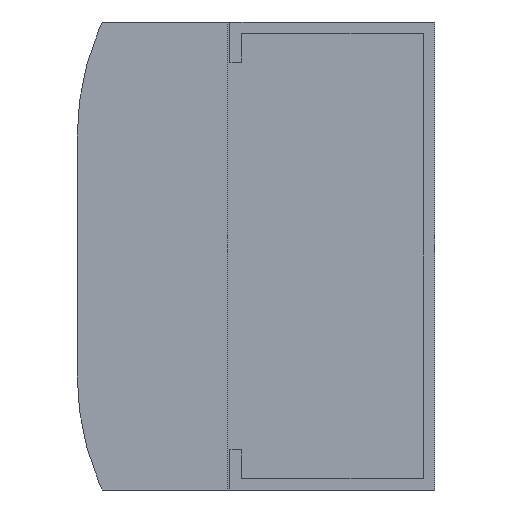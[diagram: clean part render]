
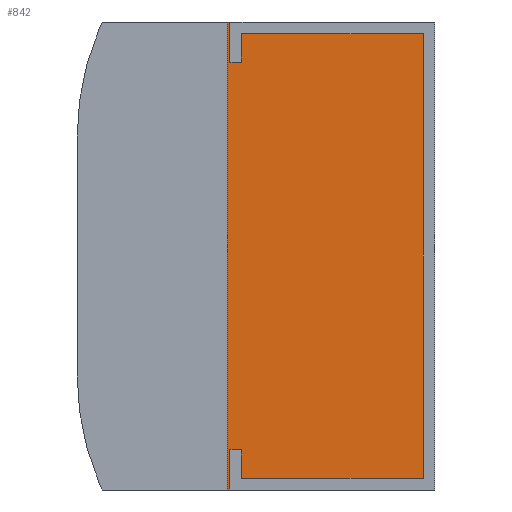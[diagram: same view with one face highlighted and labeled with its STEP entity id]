
A CAD part, left-side view. The second image highlights one B-rep face of the part: STEP entity #842.
In plain terms, the highlighted planar face has unit normal (-1, 0, 0).
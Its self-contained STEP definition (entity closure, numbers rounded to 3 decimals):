
#140 = VECTOR ( 'NONE', #1835, 1000. ) ;
#167 = EDGE_CURVE ( 'NONE', #1778, #1396, #723, .T. ) ;
#267 = FACE_OUTER_BOUND ( 'NONE', #502, .T. ) ;
#306 = LINE ( 'NONE', #608, #355 ) ;
#311 = CARTESIAN_POINT ( 'NONE',  ( -16.3, 18.3, -46.7 ) ) ;
#320 = VERTEX_POINT ( 'NONE', #311 ) ;
#355 = VECTOR ( 'NONE', #1184, 1000. ) ;
#410 = CARTESIAN_POINT ( 'NONE',  ( -16.3, -23.1, -97.838 ) ) ;
#471 = VERTEX_POINT ( 'NONE', #1822 ) ;
#502 = EDGE_LOOP ( 'NONE', ( #1497, #1156, #828, #1246 ) ) ;
#529 = DIRECTION ( 'NONE',  ( 0., 0., -1. ) ) ;
#574 = CARTESIAN_POINT ( 'NONE',  ( -16.3, -23.1, 46.7 ) ) ;
#608 = CARTESIAN_POINT ( 'NONE',  ( -16.3, -23.1, -46.7 ) ) ;
#723 = LINE ( 'NONE', #574, #982 ) ;
#828 = ORIENTED_EDGE ( 'NONE', *, *, #167, .T. ) ;
#842 = ADVANCED_FACE ( 'NONE', ( #267 ), #858, .F. ) ;
#858 = PLANE ( 'NONE',  #1285 ) ;
#957 = EDGE_CURVE ( 'NONE', #471, #1778, #1772, .T. ) ;
#982 = VECTOR ( 'NONE', #1597, 1000. ) ;
#992 = DIRECTION ( 'NONE',  ( 1., 0., 0. ) ) ;
#998 = EDGE_CURVE ( 'NONE', #471, #320, #306, .T. ) ;
#1156 = ORIENTED_EDGE ( 'NONE', *, *, #957, .T. ) ;
#1165 = CARTESIAN_POINT ( 'NONE',  ( -16.3, -20.8, 46.7 ) ) ;
#1184 = DIRECTION ( 'NONE',  ( 0., 1., 0. ) ) ;
#1245 = CARTESIAN_POINT ( 'NONE',  ( -16.3, 18.3, 46.7 ) ) ;
#1246 = ORIENTED_EDGE ( 'NONE', *, *, #1296, .T. ) ;
#1285 = AXIS2_PLACEMENT_3D ( 'NONE', #410, #992, #529 ) ;
#1296 = EDGE_CURVE ( 'NONE', #1396, #320, #1721, .T. ) ;
#1396 = VERTEX_POINT ( 'NONE', #1770 ) ;
#1452 = CARTESIAN_POINT ( 'NONE',  ( -16.3, -20.8, 46.7 ) ) ;
#1497 = ORIENTED_EDGE ( 'NONE', *, *, #998, .F. ) ;
#1597 = DIRECTION ( 'NONE',  ( 0., 1., 0. ) ) ;
#1629 = VECTOR ( 'NONE', #1897, 1000. ) ;
#1721 = LINE ( 'NONE', #1245, #140 ) ;
#1770 = CARTESIAN_POINT ( 'NONE',  ( -16.3, 18.3, 46.7 ) ) ;
#1772 = LINE ( 'NONE', #1165, #1629 ) ;
#1778 = VERTEX_POINT ( 'NONE', #1452 ) ;
#1822 = CARTESIAN_POINT ( 'NONE',  ( -16.3, -20.8, -46.7 ) ) ;
#1835 = DIRECTION ( 'NONE',  ( 0., 0., -1. ) ) ;
#1897 = DIRECTION ( 'NONE',  ( 0., 0., 1. ) ) ;
